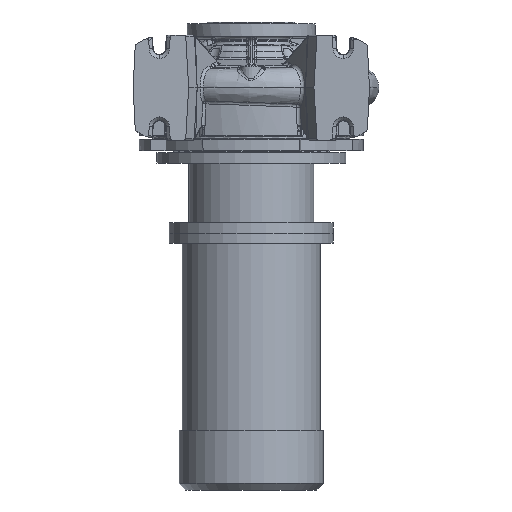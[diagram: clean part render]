
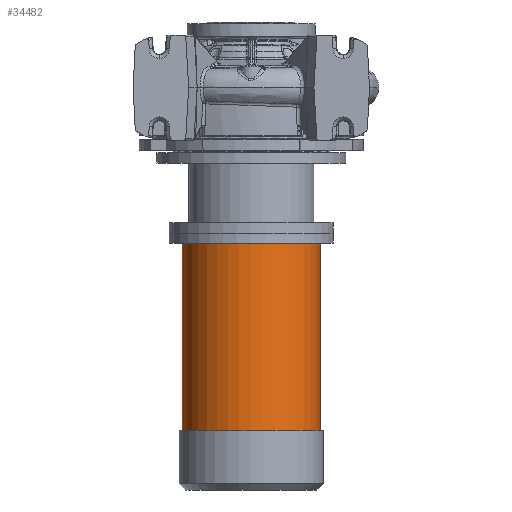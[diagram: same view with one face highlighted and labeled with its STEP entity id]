
A CAD part, front view. The second image highlights one B-rep face of the part: STEP entity #34482.
In plain terms, the highlighted cylindrical face has radius 105 mm (diameter 210 mm), a partial arc.
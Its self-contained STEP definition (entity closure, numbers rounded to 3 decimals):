
#7014 = AXIS2_PLACEMENT_3D ( 'NONE', #20752, #92330, #55519 ) ;
#7746 = LINE ( 'NONE', #53869, #76487 ) ;
#8138 = AXIS2_PLACEMENT_3D ( 'NONE', #78053, #47895, #85338 ) ;
#8614 = VERTEX_POINT ( 'NONE', #50402 ) ;
#8998 = VERTEX_POINT ( 'NONE', #17329 ) ;
#9170 = ORIENTED_EDGE ( 'NONE', *, *, #69185, .F. ) ;
#11186 = CARTESIAN_POINT ( 'NONE',  ( 0., 0., -521.8 ) ) ;
#13255 = CIRCLE ( 'NONE', #92959, 105. ) ;
#17329 = CARTESIAN_POINT ( 'NONE',  ( 105., 0., -521.8 ) ) ;
#18999 = DIRECTION ( 'NONE',  ( -1., 0., 0. ) ) ;
#20752 = CARTESIAN_POINT ( 'NONE',  ( 0., 0., -612.8 ) ) ;
#24256 = VERTEX_POINT ( 'NONE', #77446 ) ;
#25008 = DIRECTION ( 'NONE',  ( 0., 0., -1. ) ) ;
#27928 = FACE_OUTER_BOUND ( 'NONE', #60470, .T. ) ;
#29672 = CARTESIAN_POINT ( 'NONE',  ( 105., 0., -612.8 ) ) ;
#31636 = ORIENTED_EDGE ( 'NONE', *, *, #66903, .T. ) ;
#34482 = ADVANCED_FACE ( 'NONE', ( #27928 ), #77556, .T. ) ;
#35364 = CIRCLE ( 'NONE', #8138, 105. ) ;
#43591 = DIRECTION ( 'NONE',  ( 0., 0., -1. ) ) ;
#46022 = ORIENTED_EDGE ( 'NONE', *, *, #55346, .T. ) ;
#47895 = DIRECTION ( 'NONE',  ( 0., 0., -1. ) ) ;
#50402 = CARTESIAN_POINT ( 'NONE',  ( 105., 0., -236.8 ) ) ;
#53869 = CARTESIAN_POINT ( 'NONE',  ( -105., 0., -612.8 ) ) ;
#54023 = VERTEX_POINT ( 'NONE', #83073 ) ;
#55346 = EDGE_CURVE ( 'NONE', #54023, #24256, #7746, .T. ) ;
#55519 = DIRECTION ( 'NONE',  ( -1., 0., 0. ) ) ;
#59963 = ORIENTED_EDGE ( 'NONE', *, *, #60041, .F. ) ;
#60041 = EDGE_CURVE ( 'NONE', #8998, #24256, #13255, .T. ) ;
#60470 = EDGE_LOOP ( 'NONE', ( #9170, #31636, #46022, #59963 ) ) ;
#61417 = DIRECTION ( 'NONE',  ( 0., 0., -1. ) ) ;
#66903 = EDGE_CURVE ( 'NONE', #8614, #54023, #35364, .T. ) ;
#69185 = EDGE_CURVE ( 'NONE', #8614, #8998, #78121, .T. ) ;
#71359 = VECTOR ( 'NONE', #43591, 1000. ) ;
#76487 = VECTOR ( 'NONE', #61417, 1000. ) ;
#77446 = CARTESIAN_POINT ( 'NONE',  ( -105., 0., -521.8 ) ) ;
#77556 = CYLINDRICAL_SURFACE ( 'NONE', #7014, 105. ) ;
#78053 = CARTESIAN_POINT ( 'NONE',  ( 0., 0., -236.8 ) ) ;
#78121 = LINE ( 'NONE', #29672, #71359 ) ;
#83073 = CARTESIAN_POINT ( 'NONE',  ( -105., 0., -236.8 ) ) ;
#85338 = DIRECTION ( 'NONE',  ( -1., 0., 0. ) ) ;
#92330 = DIRECTION ( 'NONE',  ( 0., 0., -1. ) ) ;
#92959 = AXIS2_PLACEMENT_3D ( 'NONE', #11186, #25008, #18999 ) ;
